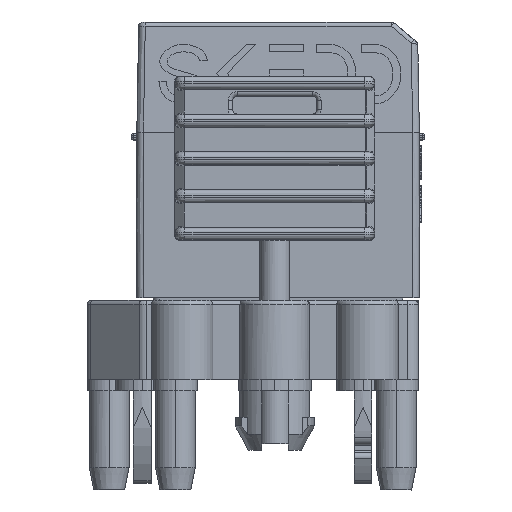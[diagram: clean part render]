
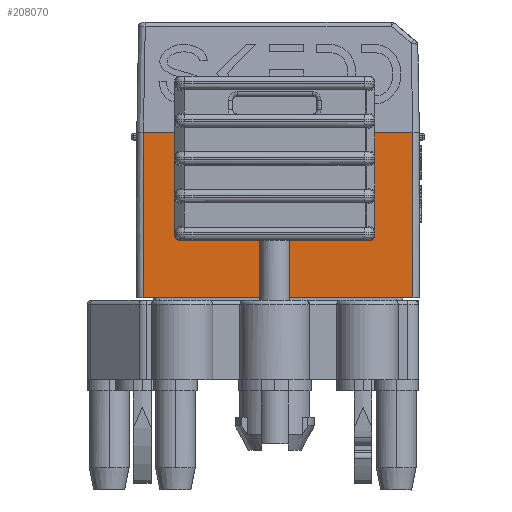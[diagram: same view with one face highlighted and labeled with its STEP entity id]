
A CAD part, left-side view. The second image highlights one B-rep face of the part: STEP entity #208070.
In plain terms, the highlighted planar face has unit normal (-1, 0, 0) as drawn and (0, 0, -1) by its records, which use the part's own axes.
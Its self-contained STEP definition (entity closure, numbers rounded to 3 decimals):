
#64330=CARTESIAN_POINT('',(25.09,12.236,
-65.42));
#64340=VERTEX_POINT('',#64330);
#64370=CARTESIAN_POINT('',(25.09,0.,-65.42));
#64380=DIRECTION('',(0.,-1.,0.));
#64390=VECTOR('',#64380,1.);
#64400=LINE('',#64370,#64390);
#64410=CARTESIAN_POINT('',(25.09,13.236,
-65.42));
#64420=VERTEX_POINT('',#64410);
#64430=EDGE_CURVE('',#64420,#64340,#64400,.T.);
#81990=CARTESIAN_POINT('',(25.09,18.336,
-65.42));
#82000=VERTEX_POINT('',#81990);
#82030=CARTESIAN_POINT('',(25.09,0.,-65.42));
#82040=DIRECTION('',(0.,-1.,0.));
#82050=VECTOR('',#82040,1.);
#82060=LINE('',#82030,#82050);
#82070=CARTESIAN_POINT('',(25.09,19.336,
-65.42));
#82080=VERTEX_POINT('',#82070);
#82090=EDGE_CURVE('',#82080,#82000,#82060,.T.);
#84640=CARTESIAN_POINT('',(21.89,13.236,
-65.42));
#84650=VERTEX_POINT('',#84640);
#84770=CARTESIAN_POINT('',(0.,13.236,-65.42));
#84780=DIRECTION('',(1.,0.,0.));
#84790=VECTOR('',#84780,1.);
#84800=LINE('',#84770,#84790);
#84810=EDGE_CURVE('',#84650,#64420,#84800,.T.);
#98090=CARTESIAN_POINT('',(21.89,19.336,
-65.42));
#98100=VERTEX_POINT('',#98090);
#98150=CARTESIAN_POINT('',(21.89,0.,-65.42));
#98160=DIRECTION('',(0.,-1.,0.));
#98170=VECTOR('',#98160,1.);
#98180=LINE('',#98150,#98170);
#98190=CARTESIAN_POINT('',(21.89,18.336,
-65.42));
#98200=VERTEX_POINT('',#98190);
#98210=EDGE_CURVE('',#98100,#98200,#98180,.T.);
#138190=CARTESIAN_POINT('',(0.,18.336,-65.42));
#138200=DIRECTION('',(1.,0.,0.));
#138210=VECTOR('',#138200,1.);
#138220=LINE('',#138190,#138210);
#138230=EDGE_CURVE('',#98200,#82000,#138220,.T.);
#154050=CARTESIAN_POINT('',(28.29,21.736,
-65.42));
#154060=VERTEX_POINT('',#154050);
#154090=CARTESIAN_POINT('',(28.29,0.,
-65.42));
#154100=DIRECTION('',(0.,-1.,0.));
#154110=VECTOR('',#154100,1.);
#154120=LINE('',#154090,#154110);
#154130=CARTESIAN_POINT('',(28.29,9.536,
-65.42));
#154140=VERTEX_POINT('',#154130);
#154150=EDGE_CURVE('',#154060,#154140,#154120,.T.);
#157580=CARTESIAN_POINT('',(21.89,0.,-65.42));
#157590=DIRECTION('',(0.,-1.,0.));
#157600=VECTOR('',#157590,1.);
#157610=LINE('',#157580,#157600);
#157620=CARTESIAN_POINT('',(21.89,12.236,
-65.42));
#157630=VERTEX_POINT('',#157620);
#157640=EDGE_CURVE('',#84650,#157630,#157610,.T.);
#180270=CARTESIAN_POINT('',(20.803,21.736,
-65.42));
#180280=VERTEX_POINT('',#180270);
#187500=CARTESIAN_POINT('',(20.803,9.536,
-65.42));
#187510=VERTEX_POINT('',#187500);
#196200=CARTESIAN_POINT('',(0.,19.336,-65.42));
#196210=DIRECTION('',(-1.,0.,0.));
#196220=VECTOR('',#196210,1.);
#196230=LINE('',#196200,#196220);
#196240=EDGE_CURVE('',#82080,#98100,#196230,.T.);
#207540=CARTESIAN_POINT('',(20.79,22.036,
-65.42));
#207550=DIRECTION('',(0.,0.,-1.));
#207560=DIRECTION('',(1.,0.,0.));
#207570=AXIS2_PLACEMENT_3D('',#207540,#207550,#207560);
#207580=PLANE('',#207570);
#207590=ORIENTED_EDGE('',*,*,#98210,.T.);
#207600=ORIENTED_EDGE('',*,*,#196240,.T.);
#207610=ORIENTED_EDGE('',*,*,#82090,.F.);
#207620=ORIENTED_EDGE('',*,*,#138230,.T.);
#207630=EDGE_LOOP('',(#207620,#207610,#207600,#207590));
#207640=FACE_BOUND('',#207630,.T.);
#207650=ORIENTED_EDGE('',*,*,#157640,.T.);
#207660=ORIENTED_EDGE('',*,*,#84810,.F.);
#207670=ORIENTED_EDGE('',*,*,#64430,.F.);
#207680=CARTESIAN_POINT('',(0.,12.236,-65.42));
#207690=DIRECTION('',(1.,0.,0.));
#207700=VECTOR('',#207690,1.);
#207710=LINE('',#207680,#207700);
#207720=EDGE_CURVE('',#157630,#64340,#207710,.T.);
#207730=ORIENTED_EDGE('',*,*,#207720,.T.);
#207740=EDGE_LOOP('',(#207730,#207670,#207660,#207650));
#207750=FACE_BOUND('',#207740,.T.);
#207760=CARTESIAN_POINT('',(20.803,0.,
-65.42));
#207770=DIRECTION('',(0.,-1.,0.));
#207780=VECTOR('',#207770,1.);
#207790=LINE('',#207760,#207780);
#207800=EDGE_CURVE('',#180280,#187510,#207790,.T.);
#207810=ORIENTED_EDGE('',*,*,#207800,.F.);
#207820=CARTESIAN_POINT('',(20.803,9.536,
-65.42));
#207830=CARTESIAN_POINT('',(20.842,9.536,
-65.42));
#207840=CARTESIAN_POINT('',(20.88,9.536,
-65.42));
#207850=CARTESIAN_POINT('',(22.14,9.536,
-65.42));
#207860=CARTESIAN_POINT('',(23.36,9.536,
-65.42));
#207870=CARTESIAN_POINT('',(49.553,9.536,
-65.42));
#207880=CARTESIAN_POINT('',(74.526,9.536,
-65.42));
#207890=CARTESIAN_POINT('',(99.499,9.536,
-65.42));
#207900=B_SPLINE_CURVE_WITH_KNOTS('',3,(#207820,#207830,#207840,#207850,
#207860,#207870,#207880,#207890),.UNSPECIFIED.,.F.,.F.,(4,2,2,4),(
-78.7,-78.578,-74.919,
0.),.UNSPECIFIED.);
#207910=EDGE_CURVE('',#187510,#154140,#207900,.T.);
#207920=ORIENTED_EDGE('',*,*,#207910,.F.);
#207930=ORIENTED_EDGE('',*,*,#154150,.T.);
#207940=CARTESIAN_POINT('',(20.803,21.736,
-65.42));
#207950=CARTESIAN_POINT('',(20.842,21.736,
-65.42));
#207960=CARTESIAN_POINT('',(20.88,21.736,
-65.42));
#207970=CARTESIAN_POINT('',(22.14,21.736,
-65.42));
#207980=CARTESIAN_POINT('',(23.36,21.736,
-65.42));
#207990=CARTESIAN_POINT('',(25.917,21.736,
-65.42));
#208000=CARTESIAN_POINT('',(27.253,21.736,
-65.42));
#208010=CARTESIAN_POINT('',(28.59,21.736,
-65.42));
#208020=B_SPLINE_CURVE_WITH_KNOTS('',3,(#207940,#207950,#207960,#207970,
#207980,#207990,#208000,#208010),.UNSPECIFIED.,.F.,.F.,(4,2,2,4),(0.,
0.121,3.781,7.791),.UNSPECIFIED.);
#208030=EDGE_CURVE('',#180280,#154060,#208020,.T.);
#208040=ORIENTED_EDGE('',*,*,#208030,.T.);
#208050=EDGE_LOOP('',(#208040,#207930,#207920,#207810));
#208060=FACE_OUTER_BOUND('',#208050,.T.);
#208070=ADVANCED_FACE('',(#207640,#207750,#208060),#207580,.T.);
